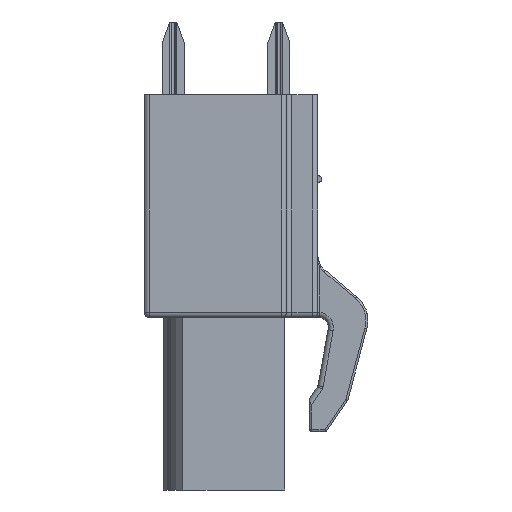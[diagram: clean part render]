
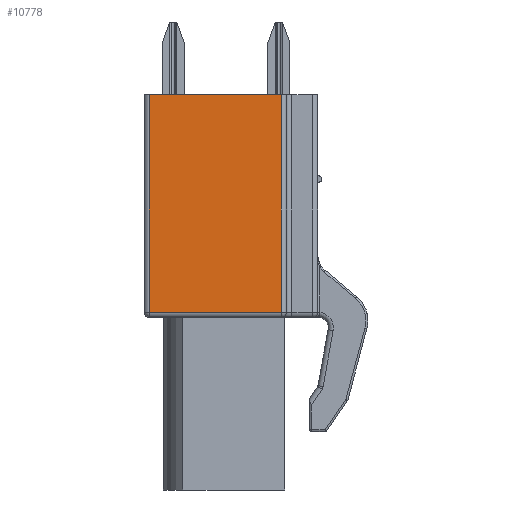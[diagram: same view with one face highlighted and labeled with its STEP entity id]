
A CAD part, left-side view. The second image highlights one B-rep face of the part: STEP entity #10778.
In plain terms, the highlighted planar face has unit normal (-1, 0, 0).
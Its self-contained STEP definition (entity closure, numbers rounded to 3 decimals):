
#2301=DIRECTION('',(0.,0.,1.));
#2302=VECTOR('',#2301,10.45);
#2303=CARTESIAN_POINT('',(15.,4.16,-13.95));
#2304=LINE('',#2303,#2302);
#2309=DIRECTION('',(0.,-1.,0.));
#2310=VECTOR('',#2309,6.35);
#2311=CARTESIAN_POINT('',(15.,10.51,-13.95));
#2312=LINE('',#2311,#2310);
#2336=DIRECTION('',(0.,0.,-1.));
#2337=VECTOR('',#2336,10.45);
#2338=CARTESIAN_POINT('',(15.,10.51,-3.5));
#2339=LINE('',#2338,#2337);
#2367=DIRECTION('',(0.,1.,0.));
#2368=VECTOR('',#2367,6.35);
#2369=CARTESIAN_POINT('',(15.,4.16,-3.5));
#2370=LINE('',#2369,#2368);
#6288=CARTESIAN_POINT('',(15.,4.16,-3.5));
#6289=VERTEX_POINT('',#6288);
#6290=CARTESIAN_POINT('',(15.,10.51,-3.5));
#6291=VERTEX_POINT('',#6290);
#6670=CARTESIAN_POINT('',(15.,4.16,-13.95));
#6671=VERTEX_POINT('',#6670);
#6672=CARTESIAN_POINT('',(15.,10.51,-13.95));
#6673=VERTEX_POINT('',#6672);
#10764=CARTESIAN_POINT('',(15.,10.76,-14.2));
#10765=DIRECTION('',(-1.,0.,0.));
#10766=DIRECTION('',(0.,0.,1.));
#10767=AXIS2_PLACEMENT_3D('',#10764,#10765,#10766);
#10768=PLANE('',#10767);
#10770=ORIENTED_EDGE('',*,*,#10769,.F.);
#10772=ORIENTED_EDGE('',*,*,#10771,.F.);
#10774=ORIENTED_EDGE('',*,*,#10773,.F.);
#10775=ORIENTED_EDGE('',*,*,#10756,.F.);
#10776=EDGE_LOOP('',(#10770,#10772,#10774,#10775));
#10777=FACE_OUTER_BOUND('',#10776,.F.);
#10778=ADVANCED_FACE('',(#10777),#10768,.T.);
#10756=EDGE_CURVE('',#6671,#6289,#2304,.T.);
#10769=EDGE_CURVE('',#6673,#6671,#2312,.T.);
#10771=EDGE_CURVE('',#6291,#6673,#2339,.T.);
#10773=EDGE_CURVE('',#6289,#6291,#2370,.T.);
